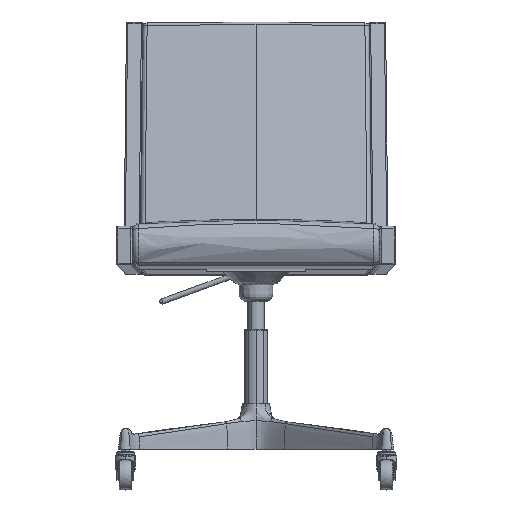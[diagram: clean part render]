
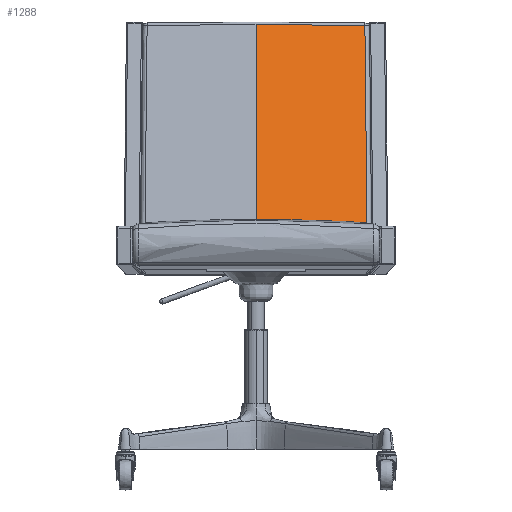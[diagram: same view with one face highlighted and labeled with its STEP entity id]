
A CAD part, front view. The second image highlights one B-rep face of the part: STEP entity #1288.
In plain terms, the highlighted free-form (B-spline) face has degree [1, 3] with [2, 6] control points.
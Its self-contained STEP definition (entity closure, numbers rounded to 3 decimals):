
#1288=ADVANCED_FACE('',(#2385),#16492,.T.);
#2385=FACE_OUTER_BOUND('',#3504,.T.);
#3504=EDGE_LOOP('',(#8250,#8251,#8252,#8253));
#8250=ORIENTED_EDGE('',*,*,#11083,.F.);
#8251=ORIENTED_EDGE('',*,*,#11124,.T.);
#8252=ORIENTED_EDGE('',*,*,#11070,.F.);
#8253=ORIENTED_EDGE('',*,*,#11117,.F.);
#11070=EDGE_CURVE('',#15299,#15291,#12582,.T.);
#11083=EDGE_CURVE('',#15298,#15303,#13769,.T.);
#11117=EDGE_CURVE('',#15303,#15299,#13788,.T.);
#11124=EDGE_CURVE('',#15298,#15291,#13794,.T.);
#12582=(
BOUNDED_CURVE()
B_SPLINE_CURVE(3,(#112552,#112553,#112554,#112555),.UNSPECIFIED.,.F.,.F.)
B_SPLINE_CURVE_WITH_KNOTS((4,4),(-361.654,0.),.UNSPECIFIED.)
CURVE()
GEOMETRIC_REPRESENTATION_ITEM()
RATIONAL_B_SPLINE_CURVE((1.,1.,1.,1.))
REPRESENTATION_ITEM('')
);
#13769=B_SPLINE_CURVE_WITH_KNOTS('',3,(#112981,#112982,#112983,#112984),
 .UNSPECIFIED.,.F.,.F.,(4,4),(24.487,380.677),
 .UNSPECIFIED.);
#13788=B_SPLINE_CURVE_WITH_KNOTS('',3,(#113657,#113658,#113659,#113660),
 .UNSPECIFIED.,.F.,.F.,(4,4),(181.368,362.736),
 .UNSPECIFIED.);
#13794=B_SPLINE_CURVE_WITH_KNOTS('',3,(#113731,#113732,#113733,#113734,
#113735,#113736,#113737,#113738),.UNSPECIFIED.,.F.,.F.,(4,2,2,4),(183.499,
183.499,275.249,366.999),.UNSPECIFIED.);
#15291=VERTEX_POINT('',#112132);
#15298=VERTEX_POINT('',#112139);
#15299=VERTEX_POINT('',#112140);
#15303=VERTEX_POINT('',#112144);
#16492=B_SPLINE_SURFACE_WITH_KNOTS('',1,3,((#105727,#105728,#105729,#105730,
#105731,#105732),(#105733,#105734,#105735,#105736,#105737,#105738)),
 .UNSPECIFIED.,.F.,.F.,.F.,(2,2),(4,2,4),(0.,414.633),(0.,230.645,
461.289),.UNSPECIFIED.);
#105727=CARTESIAN_POINT('',(-229.315,268.075,806.152));
#105728=CARTESIAN_POINT('',(-152.753,262.385,807.596));
#105729=CARTESIAN_POINT('',(-75.852,259.542,808.318));
#105730=CARTESIAN_POINT('',(77.949,259.594,808.304));
#105731=CARTESIAN_POINT('',(154.848,262.489,807.57));
#105732=CARTESIAN_POINT('',(231.407,268.231,806.113));
#105733=CARTESIAN_POINT('',(-227.901,140.823,411.532));
#105734=CARTESIAN_POINT('',(-151.821,135.204,412.958));
#105735=CARTESIAN_POINT('',(-75.408,132.396,413.671));
#105736=CARTESIAN_POINT('',(77.416,132.445,413.658));
#105737=CARTESIAN_POINT('',(153.827,135.303,412.933));
#105738=CARTESIAN_POINT('',(229.903,140.971,411.494));
#112132=CARTESIAN_POINT('',(185.163,143.81,430.403));
#112139=CARTESIAN_POINT('',(0.,139.929,436.972));
#112140=CARTESIAN_POINT('',(181.56,254.499,774.682));
#112144=CARTESIAN_POINT('',(0.,249.158,776.001));
#112552=CARTESIAN_POINT('',(181.56,254.499,774.682));
#112553=CARTESIAN_POINT('',(182.761,217.602,659.923));
#112554=CARTESIAN_POINT('',(183.962,180.706,545.163));
#112555=CARTESIAN_POINT('',(185.163,143.81,430.403));
#112981=CARTESIAN_POINT('',(0.,139.929,436.972));
#112982=CARTESIAN_POINT('',(0.,176.339,549.982));
#112983=CARTESIAN_POINT('',(0.,212.748,662.991));
#112984=CARTESIAN_POINT('',(0.,249.158,776.001));
#113657=CARTESIAN_POINT('',(0.,249.158,776.001));
#113658=CARTESIAN_POINT('',(60.557,249.158,776.001));
#113659=CARTESIAN_POINT('',(121.114,250.94,775.561));
#113660=CARTESIAN_POINT('',(181.56,254.499,774.682));
#113731=CARTESIAN_POINT('',(0.,139.929,436.972));
#113732=CARTESIAN_POINT('',(0.,139.929,436.972));
#113733=CARTESIAN_POINT('',(0.,139.929,436.972));
#113734=CARTESIAN_POINT('',(30.896,139.929,436.972));
#113735=CARTESIAN_POINT('',(61.79,140.253,436.424));
#113736=CARTESIAN_POINT('',(123.529,141.548,434.233));
#113737=CARTESIAN_POINT('',(154.373,142.518,432.589));
#113738=CARTESIAN_POINT('',(185.163,143.81,430.403));
